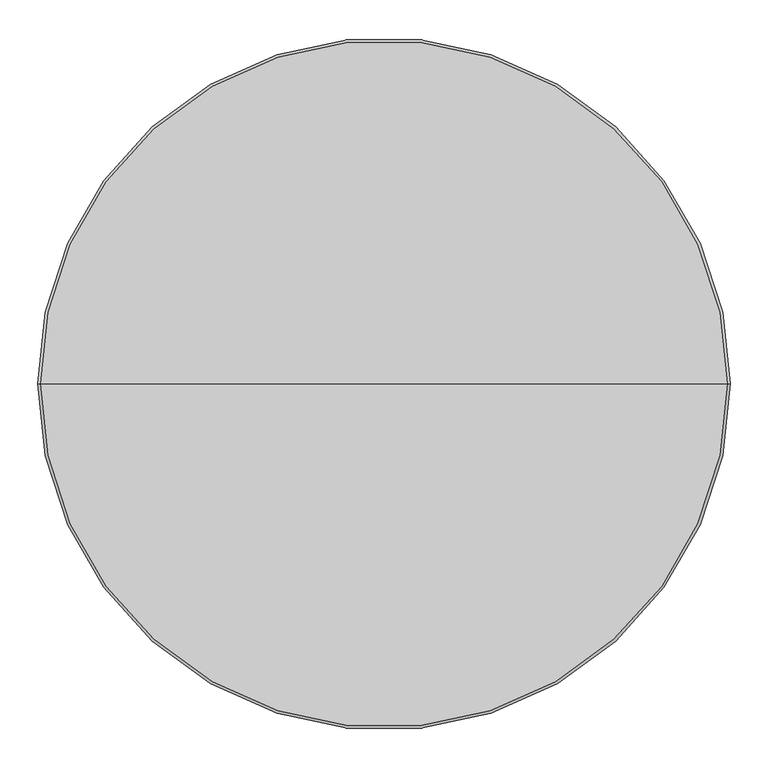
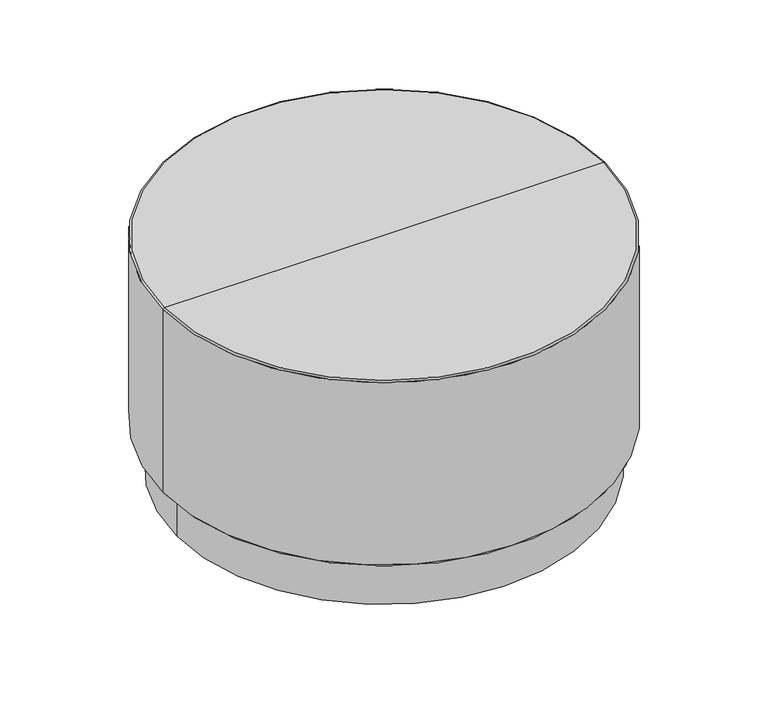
"""IFC4 building model written with IfcOpenShell, lengths in millimetres: furniture geometry, StanceHC-Drum_Table_Upholstered-Plinth_Base : DRT-36D-20-H."""

from ifc_helpers import new_model, si_unit, point, frame, frame_2d, origin, origin_with_axes, place, context, project, spatial, circle_curve, ellipse_curve, trimmed, segment, composite_curve, outline, extrude, source, transform, mapped, element, save
from ifc_brep_helpers import plane_surface, cylinder_surface, revolved_surface, advanced_brep


def furniture_cb0847da(model_context):
    return source(origin(), model_context, "Body", "SolidModel", [
        extrude(outline(composite_curve([segment(trimmed(circle_curve(frame_2d((0.0, 396.1664845)), 12.7), [point((-12.7, 396.1664845))], [point((12.7, 396.1664845))], False, "CARTESIAN"), True, "CONTINUOUS"), segment(trimmed(circle_curve(frame_2d((0.0, 396.1664845)), 12.7), [point((12.7, 396.1664845))], [point((-12.7, 396.1664845))], False, "CARTESIAN"), True, "CONTINUOUS")], self_intersect=False)), origin_with_axes(), (0.0, 0.0, 1.0), 4.7625),
        extrude(outline(composite_curve([segment(trimmed(circle_curve(frame_2d((0.0, -396.1664845)), 12.7), [point((-12.7, -396.1664845))], [point((12.7, -396.1664845))], False, "CARTESIAN"), True, "CONTINUOUS"), segment(trimmed(circle_curve(frame_2d((0.0, -396.1664845)), 12.7), [point((12.7, -396.1664845))], [point((-12.7, -396.1664845))], False, "CARTESIAN"), True, "CONTINUOUS")], self_intersect=False)), origin_with_axes(), (0.0, 0.0, 1.0), 4.7625),
        extrude(outline(composite_curve([segment(trimmed(circle_curve(frame_2d((400.0496404, 0.0)), 12.7), [point((387.3496404, 0.0))], [point((412.7496404, 0.0))], False, "CARTESIAN"), True, "CONTINUOUS"), segment(trimmed(circle_curve(frame_2d((400.0496404, 0.0)), 12.7), [point((412.7496404, 0.0))], [point((387.3496404, 0.0))], False, "CARTESIAN"), True, "CONTINUOUS")], self_intersect=False)), origin_with_axes(), (0.0, 0.0, 1.0), 4.7625),
        extrude(outline(composite_curve([segment(trimmed(circle_curve(frame_2d((-400.0496404, 0.0)), 12.7), [point((-412.7496404, 0.0))], [point((-387.3496404, 0.0))], False, "CARTESIAN"), True, "CONTINUOUS"), segment(trimmed(circle_curve(frame_2d((-400.0496404, 0.0)), 12.7), [point((-387.3496404, 0.0))], [point((-412.7496404, 0.0))], False, "CARTESIAN"), True, "CONTINUOUS")], self_intersect=False)), origin_with_axes(), (0.0, 0.0, 1.0), 4.7625),
        advanced_brep(
        [(-452.4042756, 0.0, 106.3625), (452.4042756, 0.0, 106.3625), (428.6246404, 0.0, 106.3625), (-428.6246404, 0.0, 106.3625), (-452.4042756, 0.0, 111.125), (452.4042756, 0.0, 111.125), (0.0, 0.0, 111.125), (-428.6246404, 0.0, 4.7625), (428.6246404, 0.0, 4.7625), (0.0, 0.0, 4.7625)],
        [
            (0, 1, circle_curve(frame((0.0, 0.0, 106.3625), z_axis=(0.0, 0.0, -1.0), x_axis=(1.0, 0.0, 0.0)), 452.4042756)),
            (1, 2),
            (2, 3, circle_curve(frame((0.0, 0.0, 106.3625), z_axis=(0.0, 0.0, 1.0), x_axis=(1.0, 0.0, 0.0)), 428.6246404)),
            (3, 0),
            (1, 0, circle_curve(frame((0.0, 0.0, 106.3625), z_axis=(0.0, 0.0, -1.0), x_axis=(1.0, 0.0, 0.0)), 452.4042756)),
            (3, 2, circle_curve(frame((0.0, 0.0, 106.3625), z_axis=(0.0, 0.0, 1.0), x_axis=(1.0, 0.0, 0.0)), 428.6246404)),
            (4, 5, circle_curve(frame((0.0, 0.0, 111.125), z_axis=(0.0, 0.0, -1.0), x_axis=(1.0, 0.0, 0.0)), 452.4042756)),
            (5, 1, circle_curve(frame((452.4042756, 0.0, 108.74375), z_axis=(0.0, 1.0, 0.0), x_axis=(1.0, 0.0, 0.0)), 2.38125)),
            (0, 4, circle_curve(frame((-452.4042756, 0.0, 108.74375), z_axis=(0.0, 1.0, 0.0), x_axis=(-1.0, 0.0, 0.0)), 2.38125)),
            (5, 4, circle_curve(frame((0.0, 0.0, 111.125), z_axis=(0.0, 0.0, -1.0), x_axis=(1.0, 0.0, 0.0)), 452.4042756)),
            (6, 5),
            (4, 6),
            (7, 8, circle_curve(frame((0.0, 0.0, 4.7625), z_axis=(0.0, 0.0, -1.0), x_axis=(1.0, 0.0, 0.0)), 428.6246404)),
            (8, 9),
            (9, 7),
            (8, 7, circle_curve(frame((0.0, 0.0, 4.7625), z_axis=(0.0, 0.0, -1.0), x_axis=(1.0, 0.0, 0.0)), 428.6246404)),
            (2, 8),
            (7, 3),
        ],
        [
            plane_surface(frame((0.0, 0.0, 106.3625), z_axis=(0.0, 0.0, -1.0), x_axis=(1.0, 0.0, 0.0))),
            revolved_surface(trimmed(ellipse_curve(frame((452.4042756, 0.0, 108.74375), z_axis=(0.0, -1.0, 0.0), x_axis=(1.0, 0.0, 0.0)), 2.38125, 2.38125), [point((452.4042756, 0.0, 106.3625))], [point((452.4042756, 0.0, 111.125))], True, "CARTESIAN"), (0.0, 0.0, 165.1), (0.0, 0.0, 1.0)),
            plane_surface(frame((0.0, 0.0, 111.125), z_axis=(0.0, 0.0, 1.0), x_axis=(1.0, 0.0, 0.0))),
            plane_surface(frame((0.0, 0.0, 4.7625), z_axis=(0.0, 0.0, -1.0), x_axis=(1.0, 0.0, 0.0))),
            cylinder_surface(frame((0.0, 0.0, 165.1), z_axis=(0.0, 0.0, 1.0), x_axis=(1.0, 0.0, 0.0)), 428.6246404),
        ],
        [
            (0, [[1, 2, 3, 4]]),
            (0, [[5, -4, 6, -2]]),
            (1, [[7, 8, -1, 9]]),
            (1, [[10, -9, -5, -8]]),
            (2, [[11, -7, 12]]),
            (2, [[-12, -10, -11]]),
            (3, [[13, 14, 15]]),
            (3, [[16, -15, -14]]),
            (4, [[-3, 17, -13, 18]]),
            (4, [[-6, -18, -16, -17]]),
        ],
    ),
        advanced_brep(
        [(-457.2, 0.0, 111.125), (457.2, 0.0, 111.125), (0.0, 0.0, 111.125), (-457.2, 0.0, 509.6389933), (457.2, 0.0, 509.6389933), (-454.0764933, 0.0, 512.7625), (454.0764933, 0.0, 512.7625), (0.0, 0.0, 512.7625)],
        [
            (0, 1, circle_curve(frame((0.0, 0.0, 111.125), z_axis=(0.0, 0.0, -1.0), x_axis=(1.0, 0.0, 0.0)), 457.2)),
            (1, 2),
            (2, 0),
            (1, 0, circle_curve(frame((0.0, 0.0, 111.125), z_axis=(0.0, 0.0, -1.0), x_axis=(1.0, 0.0, 0.0)), 457.2)),
            (3, 4, circle_curve(frame((0.0, 0.0, 509.6389933), z_axis=(0.0, 0.0, -1.0), x_axis=(1.0, 0.0, 0.0)), 457.2)),
            (4, 1),
            (0, 3),
            (4, 3, circle_curve(frame((0.0, 0.0, 509.6389933), z_axis=(0.0, 0.0, -1.0), x_axis=(1.0, 0.0, 0.0)), 457.2)),
            (5, 6, circle_curve(frame((0.0, 0.0, 512.7625), z_axis=(0.0, 0.0, -1.0), x_axis=(1.0, 0.0, 0.0)), 454.0764933)),
            (6, 4, circle_curve(frame((454.0764933, 0.0, 509.6389933), z_axis=(0.0, 1.0, 0.0), x_axis=(1.0, 0.0, 0.0)), 3.1235067)),
            (3, 5, circle_curve(frame((-454.0764933, 0.0, 509.6389933), z_axis=(0.0, 1.0, 0.0), x_axis=(-1.0, 0.0, 0.0)), 3.1235067)),
            (6, 5, circle_curve(frame((0.0, 0.0, 512.7625), z_axis=(0.0, 0.0, -1.0), x_axis=(1.0, 0.0, 0.0)), 454.0764933)),
            (7, 6),
            (5, 7),
        ],
        [
            plane_surface(frame((0.0, 0.0, 111.125), z_axis=(0.0, 0.0, -1.0), x_axis=(1.0, 0.0, 0.0))),
            cylinder_surface(frame((0.0, 0.0, 608.0125), z_axis=(0.0, 0.0, 1.0), x_axis=(1.0, 0.0, 0.0)), 457.2),
            revolved_surface(trimmed(ellipse_curve(frame((454.0764933, 0.0, 509.6389933), z_axis=(0.0, -1.0, 0.0), x_axis=(1.0, 0.0, 0.0)), 3.1235067, 3.1235067), [point((457.2, 0.0, 509.6389933))], [point((454.0764933, 0.0, 512.7625))], True, "CARTESIAN"), (0.0, 0.0, 608.0125), (0.0, 0.0, 1.0)),
            plane_surface(frame((0.0, 0.0, 512.7625), z_axis=(0.0, 0.0, 1.0), x_axis=(1.0, 0.0, 0.0))),
        ],
        [
            (0, [[1, 2, 3]]),
            (0, [[4, -3, -2]]),
            (1, [[5, 6, -1, 7]]),
            (1, [[8, -7, -4, -6]]),
            (2, [[9, 10, -5, 11]]),
            (2, [[12, -11, -8, -10]]),
            (3, [[13, -9, 14]]),
            (3, [[-14, -12, -13]]),
        ],
    ),
    ])


if __name__ == "__main__":
    model = new_model("IFC4")
    model_context = context("Model", 3, world=origin())
    ifc_project = project(units=[si_unit("LENGTHUNIT", "METRE", prefix="MILLI")], contexts=[model_context])
    site = spatial("IfcSite", under=ifc_project)
    building = spatial("IfcBuilding", under=site)
    placement = place(None, origin())
    furniture_shape = furniture_cb0847da(model_context)
    element("IfcFurniture", 1, ObjectType="StanceHC-Drum_Table_Upholstered-Plinth_Base : DRT-36D-20-H", at=placement, inside=building, context=model_context, shape_type="MappedRepresentation", body=[
        mapped(furniture_shape, transform((0.0, 0.0, 0.0), x_axis=(1.0, 0.0, 0.0), y_axis=(0.0, 1.0, 0.0), z_axis=(0.0, 0.0, 1.0))),
    ])
    save(model, "model.ifc")
